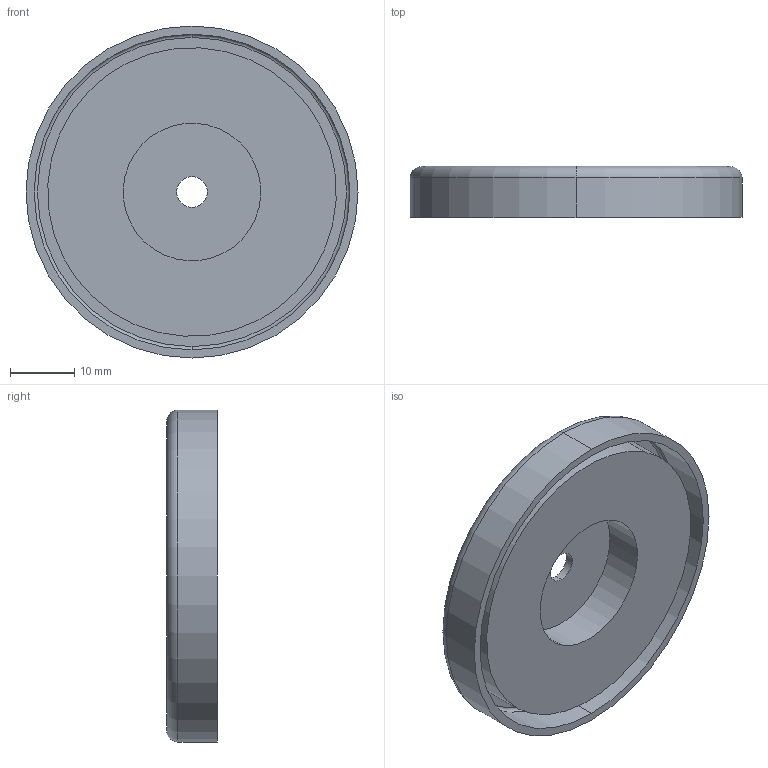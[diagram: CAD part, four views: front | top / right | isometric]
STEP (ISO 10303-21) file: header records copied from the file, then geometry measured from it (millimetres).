
FILE_DESCRIPTION (( 'STEP AP203' ), '1' );
FILE_NAME ('MX.STEP', '2018-07-31T14:15:34', ( '' ), ( '' ), 'SwSTEP 2.0', 'SolidWorks 2015', '' );
FILE_SCHEMA (( 'CONFIG_CONTROL_DESIGN' ));
Length unit declared in the file: inch
Products named in the file (1): MX
Bounding box: 51.69 x 7.94 x 51.69 mm (x, y, z)
Volume: 11282.6 mm3; surface area: 10050.8 mm2
Topology: 2 solids, 2 shells, 19 faces, 38 edges, 24 vertices
Faces by surface type: cylinder 10, plane 5, torus 4
Entity records: 593 total; most frequent: DIRECTION 106, CARTESIAN_POINT 82, ORIENTED_EDGE 76, AXIS2_PLACEMENT_3D 48, EDGE_CURVE 38, CIRCLE 28, EDGE_LOOP 24, VERTEX_POINT 24
